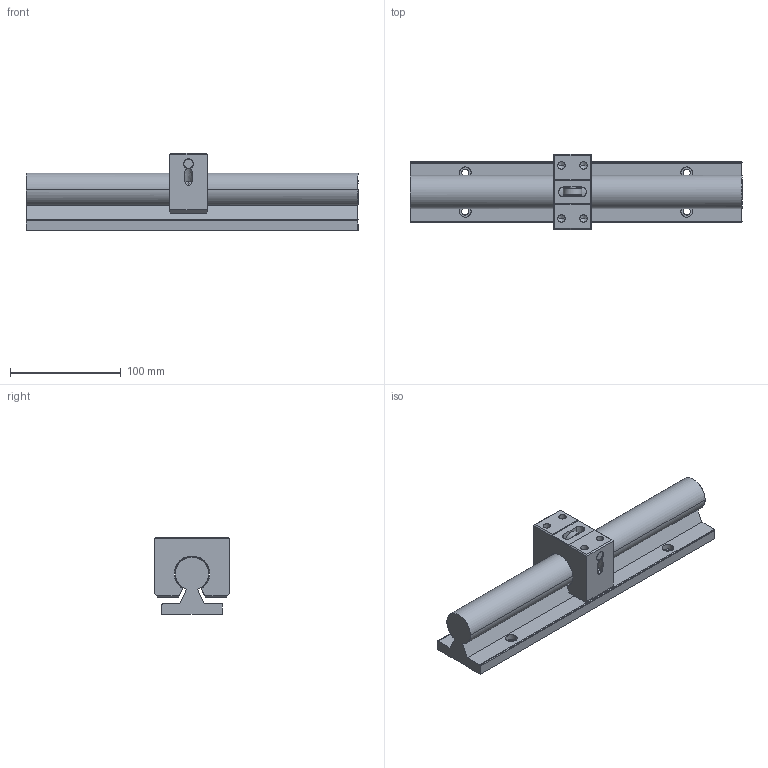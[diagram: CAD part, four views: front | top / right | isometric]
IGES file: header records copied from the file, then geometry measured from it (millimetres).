
Global section: file name: No Iges File Name specified; native system: AutoDesk Inventor R10; preprocessor: AutoDesk Inventor Iges Exporter R10; author: No Author specified; organization: No Organization specified; date: 20101222.160529; units: millimetre
Bounding box: 300 x 68 x 70 mm (x, y, z)
Surface area: 92120.4 mm2 (no closed solid volume)
Topology: 0 solids, 0 shells, 209 faces, 1482 edges, 1468 vertices
Faces by surface type: bspline 209
